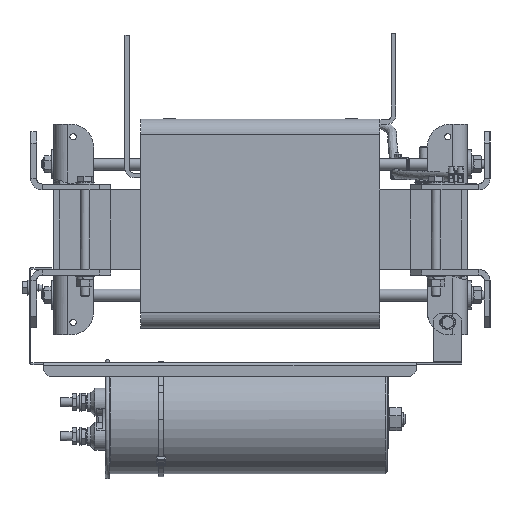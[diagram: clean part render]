
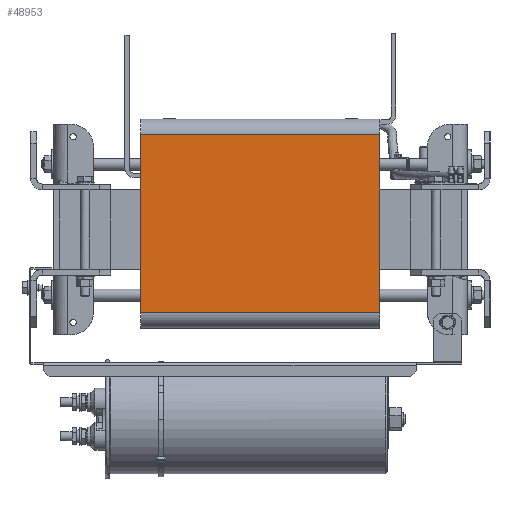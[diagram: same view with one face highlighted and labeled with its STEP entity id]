
A CAD part, left-side view. The second image highlights one B-rep face of the part: STEP entity #48953.
In plain terms, the highlighted planar face has unit normal (-1, 0, 0).
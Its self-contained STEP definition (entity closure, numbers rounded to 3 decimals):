
#2844=PLANE('',#52931);
#5007=FACE_OUTER_BOUND('',#7822,.T.);
#7822=EDGE_LOOP('',(#40398,#40399,#40400,#40401));
#11575=LINE('',#80354,#15756);
#11589=LINE('',#80390,#15770);
#11833=LINE('',#81075,#16014);
#11834=LINE('',#81077,#16015);
#15756=VECTOR('',#63005,10.);
#15770=VECTOR('',#63033,10.);
#16014=VECTOR('',#63695,10.);
#16015=VECTOR('',#63698,10.);
#22325=VERTEX_POINT('',#80351);
#22326=VERTEX_POINT('',#80353);
#22340=VERTEX_POINT('',#80387);
#22341=VERTEX_POINT('',#80389);
#28419=EDGE_CURVE('',#22325,#22326,#11575,.T.);
#28437=EDGE_CURVE('',#22340,#22341,#11589,.T.);
#28782=EDGE_CURVE('',#22341,#22325,#11833,.T.);
#28783=EDGE_CURVE('',#22340,#22326,#11834,.T.);
#40398=ORIENTED_EDGE('',*,*,#28782,.F.);
#40399=ORIENTED_EDGE('',*,*,#28437,.F.);
#40400=ORIENTED_EDGE('',*,*,#28783,.T.);
#40401=ORIENTED_EDGE('',*,*,#28419,.F.);
#48953=ADVANCED_FACE('',(#5007),#2844,.T.);
#52931=AXIS2_PLACEMENT_3D('',#81076,#63696,#63697);
#63005=DIRECTION('',(0.,0.,-1.));
#63033=DIRECTION('',(0.,0.,1.));
#63695=DIRECTION('',(0.,-1.,0.));
#63696=DIRECTION('center_axis',(-1.,0.,0.));
#63697=DIRECTION('ref_axis',(0.,0.,1.));
#63698=DIRECTION('',(0.,-1.,0.));
#80351=CARTESIAN_POINT('',(-209.012,-105.,83.21));
#80353=CARTESIAN_POINT('',(-209.012,-105.,-72.71));
#80354=CARTESIAN_POINT('',(-209.012,-105.,83.21));
#80387=CARTESIAN_POINT('',(-209.012,105.,-72.71));
#80389=CARTESIAN_POINT('',(-209.012,105.,83.21));
#80390=CARTESIAN_POINT('',(-209.012,105.,83.21));
#81075=CARTESIAN_POINT('',(-209.012,0.,83.21));
#81076=CARTESIAN_POINT('Origin',(-209.012,0.,-72.71));
#81077=CARTESIAN_POINT('',(-209.012,0.,-72.71));
